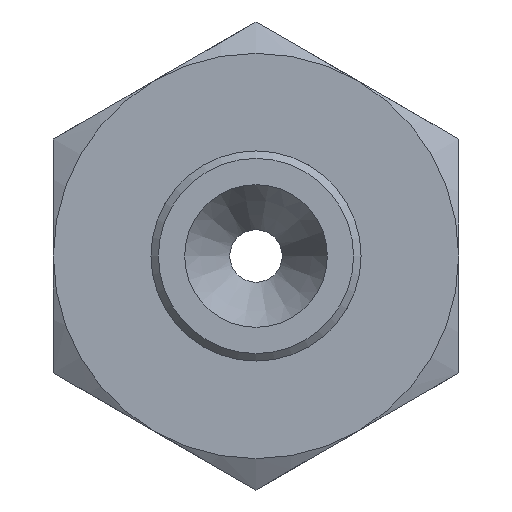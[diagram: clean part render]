
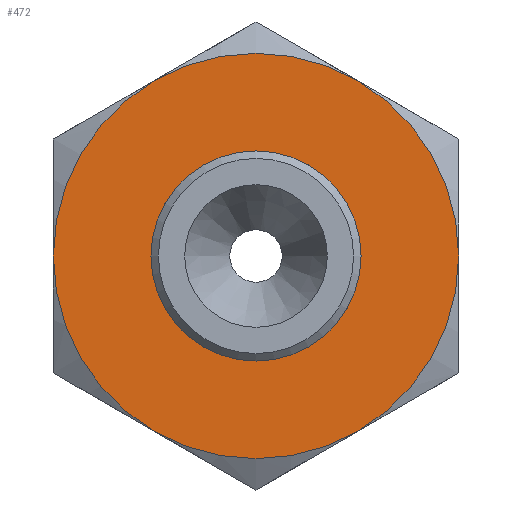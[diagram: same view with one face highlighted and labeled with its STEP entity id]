
A CAD part, front view. The second image highlights one B-rep face of the part: STEP entity #472.
In plain terms, the highlighted planar face has unit normal (0, -1, 0).
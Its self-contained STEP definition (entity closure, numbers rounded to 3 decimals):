
#57=FACE_BOUND('',#133,.T.);
#68=PLANE('',#550);
#98=FACE_OUTER_BOUND('',#132,.T.);
#132=EDGE_LOOP('',(#401,#402,#403,#404,#405,#406));
#133=EDGE_LOOP('',(#407));
#169=CIRCLE('',#512,7.);
#173=CIRCLE('',#520,13.5);
#174=CIRCLE('',#522,13.5);
#175=CIRCLE('',#524,13.5);
#176=CIRCLE('',#526,13.5);
#177=CIRCLE('',#528,13.5);
#178=CIRCLE('',#530,13.5);
#194=VERTEX_POINT('',#706);
#199=VERTEX_POINT('',#722);
#200=VERTEX_POINT('',#726);
#202=VERTEX_POINT('',#733);
#204=VERTEX_POINT('',#743);
#206=VERTEX_POINT('',#756);
#208=VERTEX_POINT('',#766);
#236=EDGE_CURVE('',#194,#194,#169,.T.);
#244=EDGE_CURVE('',#199,#200,#173,.T.);
#247=EDGE_CURVE('',#202,#199,#174,.T.);
#250=EDGE_CURVE('',#204,#202,#175,.T.);
#252=EDGE_CURVE('',#206,#204,#176,.T.);
#255=EDGE_CURVE('',#208,#206,#177,.T.);
#258=EDGE_CURVE('',#200,#208,#178,.T.);
#401=ORIENTED_EDGE('',*,*,#258,.T.);
#402=ORIENTED_EDGE('',*,*,#255,.T.);
#403=ORIENTED_EDGE('',*,*,#252,.T.);
#404=ORIENTED_EDGE('',*,*,#250,.T.);
#405=ORIENTED_EDGE('',*,*,#247,.T.);
#406=ORIENTED_EDGE('',*,*,#244,.T.);
#407=ORIENTED_EDGE('',*,*,#236,.T.);
#472=ADVANCED_FACE('',(#98,#57),#68,.F.);
#512=AXIS2_PLACEMENT_3D('',#708,#590,#591);
#520=AXIS2_PLACEMENT_3D('',#730,#608,#609);
#522=AXIS2_PLACEMENT_3D('',#740,#612,#613);
#524=AXIS2_PLACEMENT_3D('',#750,#616,#617);
#526=AXIS2_PLACEMENT_3D('',#757,#620,#621);
#528=AXIS2_PLACEMENT_3D('',#767,#624,#625);
#530=AXIS2_PLACEMENT_3D('',#776,#628,#629);
#550=AXIS2_PLACEMENT_3D('',#853,#674,#675);
#590=DIRECTION('center_axis',(0.,1.,0.));
#591=DIRECTION('ref_axis',(1.,0.,0.));
#608=DIRECTION('center_axis',(0.,-1.,0.));
#609=DIRECTION('ref_axis',(-1.,0.,0.));
#612=DIRECTION('center_axis',(0.,-1.,0.));
#613=DIRECTION('ref_axis',(-1.,0.,0.));
#616=DIRECTION('center_axis',(0.,-1.,0.));
#617=DIRECTION('ref_axis',(-1.,0.,0.));
#620=DIRECTION('center_axis',(0.,-1.,0.));
#621=DIRECTION('ref_axis',(-1.,0.,0.));
#624=DIRECTION('center_axis',(0.,-1.,0.));
#625=DIRECTION('ref_axis',(-1.,0.,0.));
#628=DIRECTION('center_axis',(0.,-1.,0.));
#629=DIRECTION('ref_axis',(-1.,0.,0.));
#674=DIRECTION('center_axis',(0.,1.,0.));
#675=DIRECTION('ref_axis',(0.,0.,1.));
#706=CARTESIAN_POINT('',(-7.782,-4.279,0.));
#708=CARTESIAN_POINT('Origin',(-0.782,-4.279,0.));
#722=CARTESIAN_POINT('',(-14.282,-4.279,0.));
#726=CARTESIAN_POINT('',(-7.532,-4.279,-11.691));
#730=CARTESIAN_POINT('Origin',(-0.782,-4.279,0.));
#733=CARTESIAN_POINT('',(-7.532,-4.279,11.691));
#740=CARTESIAN_POINT('Origin',(-0.782,-4.279,0.));
#743=CARTESIAN_POINT('',(5.968,-4.279,11.691));
#750=CARTESIAN_POINT('Origin',(-0.782,-4.279,0.));
#756=CARTESIAN_POINT('',(12.718,-4.279,0.));
#757=CARTESIAN_POINT('Origin',(-0.782,-4.279,0.));
#766=CARTESIAN_POINT('',(5.968,-4.279,-11.691));
#767=CARTESIAN_POINT('Origin',(-0.782,-4.279,0.));
#776=CARTESIAN_POINT('Origin',(-0.782,-4.279,0.));
#853=CARTESIAN_POINT('Origin',(-0.782,-4.279,0.));
